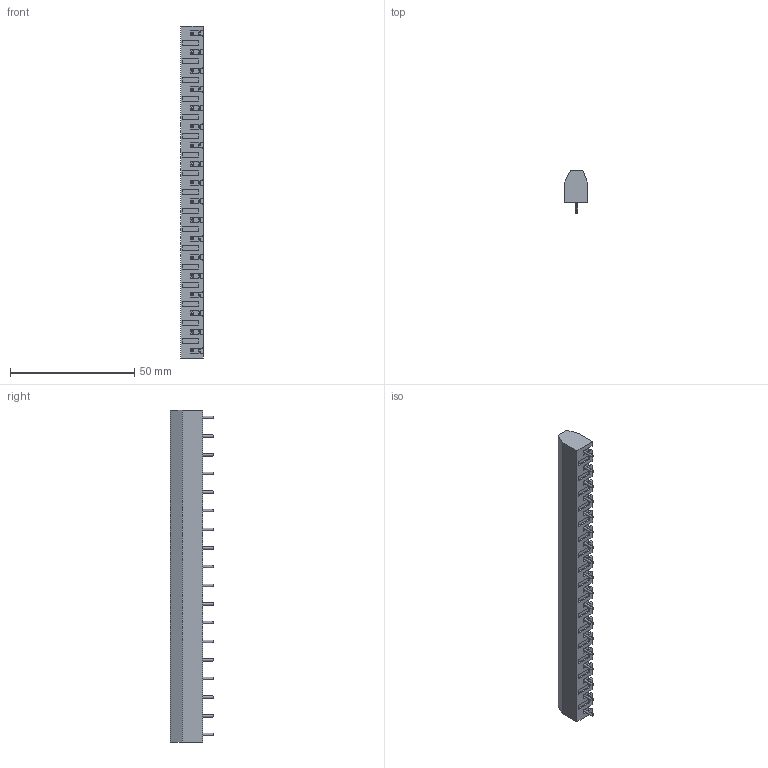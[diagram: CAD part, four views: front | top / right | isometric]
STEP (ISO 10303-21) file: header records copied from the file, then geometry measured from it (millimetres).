
FILE_DESCRIPTION (( 'STEP AP214' ), '1' );
FILE_NAME ('977-OP-DS-18.STEP', '2008-01-10T03:47:01', ( ' ' ), ( '' ), 'SwSTEP 2.0', 'SolidWorks 2007', '' );
FILE_SCHEMA (( 'AUTOMOTIVE_DESIGN' ));
Length unit declared in the file: millimetre
Products named in the file (1): 977-OP-DS-18
Bounding box: 9 x 17.4 x 133.5 mm (x, y, z)
Volume: 11188.6 mm3; surface area: 10632.6 mm2
Topology: 1 solids, 1 shells, 1492 faces, 4212 edges, 2774 vertices
Faces by surface type: plane 913, cylinder 437, cone 88, bspline 54
Entity records: 50249 total; most frequent: CARTESIAN_POINT 11331, ORIENTED_EDGE 8424, DIRECTION 7806, EDGE_CURVE 4212, VERTEX_POINT 2774, VECTOR 2724, LINE 2724, AXIS2_PLACEMENT_3D 2541
